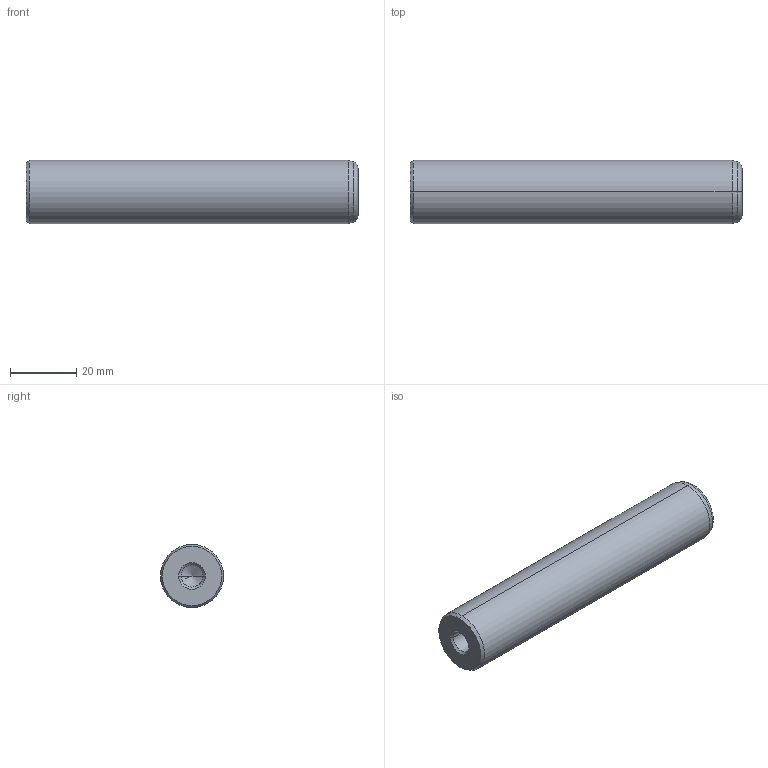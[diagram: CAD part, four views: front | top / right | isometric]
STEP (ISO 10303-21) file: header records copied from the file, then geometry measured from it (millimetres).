
FILE_DESCRIPTION(('CATIA V5 STEP Exchange'),'2;1');
FILE_NAME('C:\Users\Utente\Desktop\IO LAVORO\3D X SITO CF\X SITO\720\720-19x100.stp','2021-01-01T13:10:03+00:00',('none'),('none'),'CATIA Version 5 Release 20 GA (IN-10)','CATIA V5 STEP AP203','none');
FILE_SCHEMA(('CONFIG_CONTROL_DESIGN'));
Length unit declared in the file: millimetre
Products named in the file (1): 720-19x100
Bounding box: 100 x 19 x 19 mm (x, y, z)
Volume: 26521.8 mm3; surface area: 7434.3 mm2
Topology: 1 solids, 1 shells, 22 faces, 62 edges, 40 vertices
Faces by surface type: cone 12, cylinder 6, plane 2, torus 2
Entity records: 806 total; most frequent: CARTESIAN_POINT 229, ORIENTED_EDGE 116, DIRECTION 93, EDGE_CURVE 58, AXIS2_PLACEMENT_3D 54, VERTEX_POINT 40, CIRCLE 31, EDGE_LOOP 24
